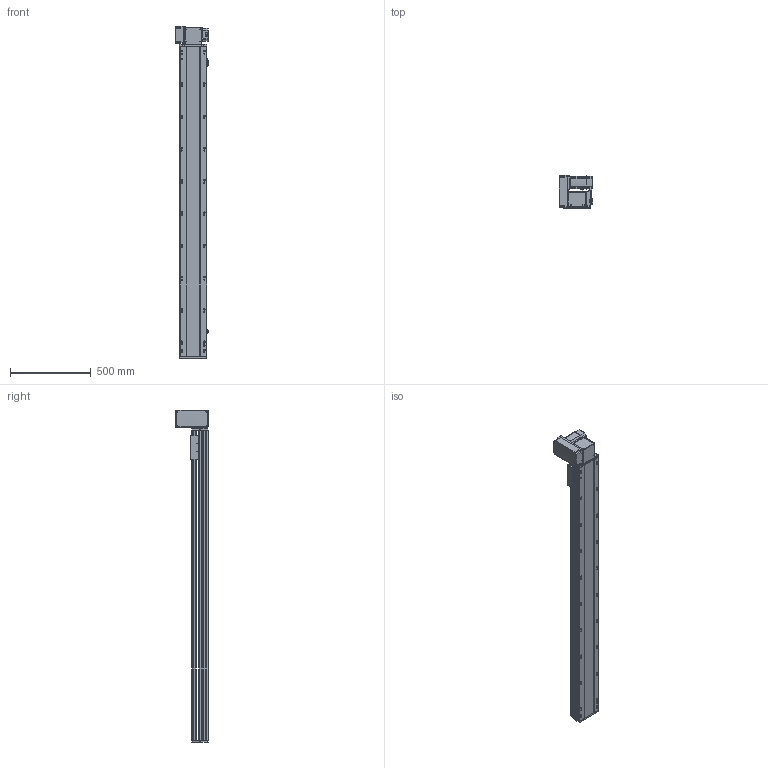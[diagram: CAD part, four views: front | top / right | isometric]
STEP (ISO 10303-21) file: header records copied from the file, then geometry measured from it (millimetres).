
FILE_DESCRIPTION (( 'STEP AP214' ), '1' );
FILE_NAME ('RTB17S-XX-1650-LW-M75-C4.STEP', '2025-12-12T01:08:25', ( '' ), ( '' ), 'SwSTEP 2.0', 'SolidWorks 2018', '' );
FILE_SCHEMA (( 'AUTOMOTIVE_DESIGN' ));
Length unit declared in the file: millimetre
Products named in the file (15): RTH13-BL-012覜茼え俋离^RTB17S-賑釱_RTB17S-XX-XX-LW-M75-C4; RTB22S-GY-017P^RTB17S-LW-々湍釱蚾饜-750W_RTB17S-XX-XX-LW-M75-C4; RTB22S-GY-008-M75--萇儂啣^RTB17S-LW-々湍釱蚾饜-750W_RTB17S-XX-XX-LW-M75-C4; RTB17S-XX-1650-LW-M75-C4; RTB17S-L-001-耜醱啣^RTB17S-XX-XX-LW-M75-C4; 750W萇儂^RTB17S-XX-XX-LW-M75-C4; EE672^RTB17S-XX-XX-LW-M75-C4; RTB17S-賑釱^RTB17S-XX-XX-LW-M75-C4; RTB17-R-011菁釱^RTB17S-XX-XX-LW-M75-C4; RTB22S-GY-018P^RTB17S-LW-々湍釱蚾饜-750W_RTB17S-XX-XX-LW-M75-C4; RTB17S-LW-々湍釱蚾饜-750W^RTB17S-XX-XX-LW-M75-C4; RTB17S-L-007奻裔^RTB17S-XX-XX-LW-M75-C4; RTB17S-L-004-賑釱^RTB17S-賑釱_RTB17S-XX-XX-LW-M75-C4; RTB17S-L-014-T20-P75--々湍釱^RTB17S-LW-々湍釱蚾饜-750W_RTB17S-XX-XX-LW-M75-C4; RTB22S-GY-005P^RTB17S-LW-々湍釱蚾饜-750W_RTB17S-XX-XX-LW-M75-C4
Assembly tree (17 placements, depth 3):
  RTB17S-XX-1650-LW-M75-C4
    RTB17-R-011菁釱^RTB17S-XX-XX-LW-M75-C4
    EE672^RTB17S-XX-XX-LW-M75-C4  x3
    RTB17S-L-001-耜醱啣^RTB17S-XX-XX-LW-M75-C4
    RTB17S-賑釱^RTB17S-XX-XX-LW-M75-C4
      RTB17S-L-004-賑釱^RTB17S-賑釱_RTB17S-XX-XX-LW-M75-C4
      RTH13-BL-012覜茼え俋离^RTB17S-賑釱_RTB17S-XX-XX-LW-M75-C4
    RTB17S-L-007奻裔^RTB17S-XX-XX-LW-M75-C4
    750W萇儂^RTB17S-XX-XX-LW-M75-C4
    RTB17S-LW-々湍釱蚾饜-750W^RTB17S-XX-XX-LW-M75-C4
      RTB17S-L-014-T20-P75--々湍釱^RTB17S-LW-々湍釱蚾饜-750W_RTB17S-XX-XX-LW-M75-C4
      RTB22S-GY-005P^RTB17S-LW-々湍釱蚾饜-750W_RTB17S-XX-XX-LW-M75-C4
      RTB22S-GY-017P^RTB17S-LW-々湍釱蚾饜-750W_RTB17S-XX-XX-LW-M75-C4  x2
      RTB22S-GY-008-M75--萇儂啣^RTB17S-LW-々湍釱蚾饜-750W_RTB17S-XX-XX-LW-M75-C4
      RTB22S-GY-018P^RTB17S-LW-々湍釱蚾饜-750W_RTB17S-XX-XX-LW-M75-C4
Bounding box: 210.4 x 201.5 x 2057.5 mm (x, y, z)
Volume: 16259150.1 mm3; surface area: 2871131.7 mm2
Topology: 17 solids, 17 shells, 2153 faces, 5998 edges, 3878 vertices
Faces by surface type: plane 978, cylinder 759, bspline 294, cone 110, sphere 8, torus 4
Entity records: 61174 total; most frequent: CARTESIAN_POINT 18062, ORIENTED_EDGE 8840, DIRECTION 8222, EDGE_CURVE 4420, AXIS2_PLACEMENT_3D 2898, VERTEX_POINT 2882, LINE 2426, VECTOR 2426
